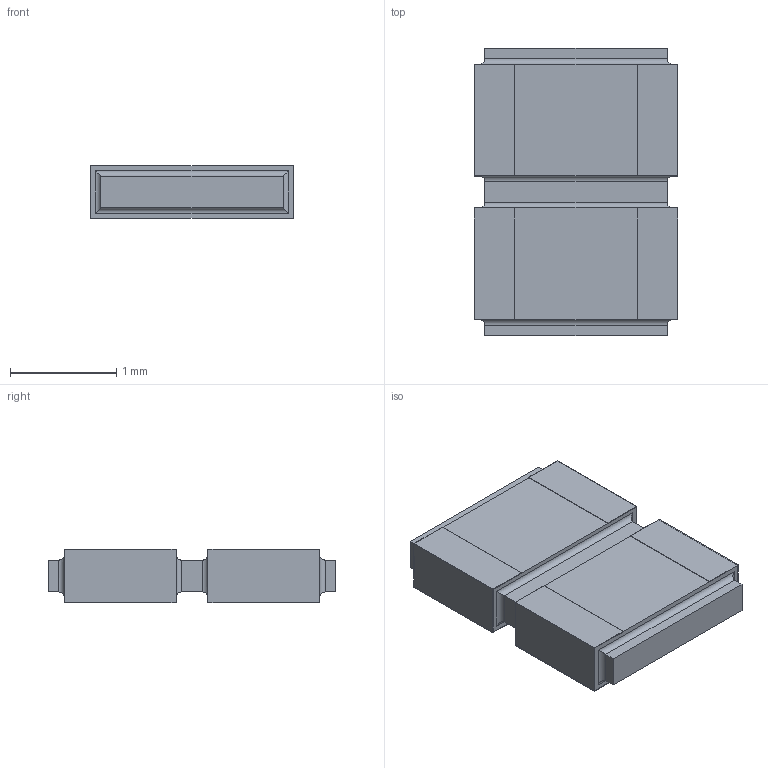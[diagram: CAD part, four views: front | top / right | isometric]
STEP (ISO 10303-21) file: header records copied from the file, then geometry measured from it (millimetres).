
FILE_DESCRIPTION(/* description */ (''),/* implementation_level */ '2;1');
FILE_NAME(/* name */ 'S:\DOCUMENT\AUTOCAD\3D_Modèles\10_3D-pour-VISHAY-COM\PRA\PRA135\PRA135-I2_à_I8\10_IGES\PRA135I2_B-or-N-or-G.stp',/* time_stamp */ '2017-12-18T12:05:56+01:00',/* author */ ('dparmentier'),/* organization */ ('unknown'),/* preprocessor_version */ 'ST-DEVELOPER v17',/* originating_system */ 'Autodesk Inventor 2018',/* authorisation */ '');
FILE_SCHEMA (('AUTOMOTIVE_DESIGN { 1 0 10303 214 3 1 1 }'));
Length unit declared in the file: millimetre
Products named in the file (1): PRA135I2_B-or-N-or-G
Bounding box: 1.91 x 2.7 x 0.5 mm (x, y, z)
Volume: 2.3 mm3; surface area: 25.4 mm2
Topology: 5 solids, 5 shells, 82 faces, 188 edges, 120 vertices
Faces by surface type: plane 66, cylinder 16
Entity records: 2309 total; most frequent: CARTESIAN_POINT 391, ORIENTED_EDGE 376, DIRECTION 370, EDGE_CURVE 188, LINE 172, VECTOR 172, VERTEX_POINT 120, AXIS2_PLACEMENT_3D 99
